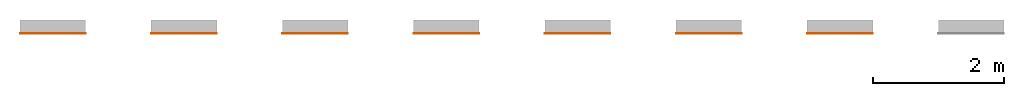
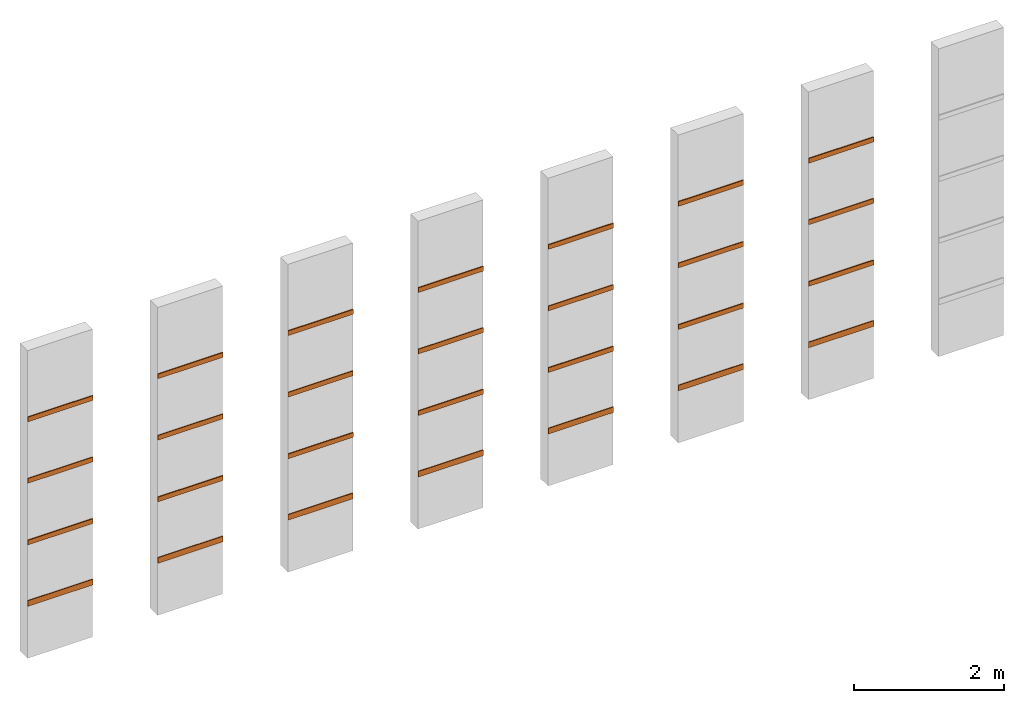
# One storey, part 2 of 3: 28 proxies.
"""IFC2X3 building model written with IfcOpenShell, lengths in millimetres."""

from ifc_helpers import new_model, entity, si_unit, converted_unit, derived_unit, direction, frame, frame_2d, origin, place, context, subcontext, project, spatial, polyline, circle_curve, parameter, trimmed, segment, composite_curve, outline, extrude, type_object, element, save


model = new_model("IFC2X3")

# Units and contexts
model_context = context("Model", 3, precision=0.01, world=origin(), true_north=direction((6.12303176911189e-17, 1.0)))
body_context = subcontext(model_context, "Body", "Model", "MODEL_VIEW")
ifc_project = project(units=[si_unit("LENGTHUNIT", "METRE", prefix="MILLI"), si_unit("AREAUNIT", "SQUARE_METRE"), si_unit("VOLUMEUNIT", "CUBIC_METRE"), converted_unit("PLANEANGLEUNIT", "DEGREE", entity("IfcRatioMeasure", 0.0174532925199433), si_unit("PLANEANGLEUNIT", "RADIAN"), dimensions=[0, 0, 0, 0, 0, 0, 0]), si_unit("MASSUNIT", "GRAM", prefix="KILO"), derived_unit("MASSDENSITYUNIT", [(si_unit("MASSUNIT", "GRAM", prefix="KILO"), 1), (si_unit("LENGTHUNIT", "METRE"), -3)]), derived_unit("MOMENTOFINERTIAUNIT", [(si_unit("LENGTHUNIT", "METRE"), 4)]), si_unit("TIMEUNIT", "SECOND"), si_unit("FREQUENCYUNIT", "HERTZ"), si_unit("THERMODYNAMICTEMPERATUREUNIT", "DEGREE_CELSIUS"), derived_unit("THERMALTRANSMITTANCEUNIT", [(si_unit("MASSUNIT", "GRAM", prefix="KILO"), 1), (si_unit("THERMODYNAMICTEMPERATUREUNIT", "KELVIN"), -1), (si_unit("TIMEUNIT", "SECOND"), -3)]), derived_unit("VOLUMETRICFLOWRATEUNIT", [(si_unit("LENGTHUNIT", "METRE"), 3), (si_unit("TIMEUNIT", "SECOND"), -1)]), si_unit("ELECTRICCURRENTUNIT", "AMPERE"), si_unit("ELECTRICVOLTAGEUNIT", "VOLT"), si_unit("POWERUNIT", "WATT"), si_unit("FORCEUNIT", "NEWTON", prefix="KILO"), si_unit("ILLUMINANCEUNIT", "LUX"), si_unit("LUMINOUSFLUXUNIT", "LUMEN"), si_unit("LUMINOUSINTENSITYUNIT", "CANDELA"), derived_unit("USERDEFINED", [(si_unit("MASSUNIT", "GRAM", prefix="KILO"), -1), (si_unit("LENGTHUNIT", "METRE"), -2), (si_unit("TIMEUNIT", "SECOND"), 3), (si_unit("LUMINOUSFLUXUNIT", "LUMEN"), 1)]), derived_unit("LINEARVELOCITYUNIT", [(si_unit("LENGTHUNIT", "METRE"), 1), (si_unit("TIMEUNIT", "SECOND"), -1)]), si_unit("PRESSUREUNIT", "PASCAL"), derived_unit("USERDEFINED", [(si_unit("LENGTHUNIT", "METRE"), -2), (si_unit("MASSUNIT", "GRAM", prefix="KILO"), 1), (si_unit("TIMEUNIT", "SECOND"), -2)]), derived_unit("LINEARFORCEUNIT", [(si_unit("MASSUNIT", "GRAM", prefix="KILO"), 1), (si_unit("LENGTHUNIT", "METRE"), 1), (si_unit("TIMEUNIT", "SECOND"), -2), (si_unit("LENGTHUNIT", "METRE"), -1)]), derived_unit("PLANARFORCEUNIT", [(si_unit("MASSUNIT", "GRAM", prefix="KILO"), 1), (si_unit("LENGTHUNIT", "METRE"), 1), (si_unit("TIMEUNIT", "SECOND"), -2), (si_unit("LENGTHUNIT", "METRE"), -2)])], contexts=[model_context])

# Site, building, storey
site_placement = place(None, origin())
site = spatial("IfcSite", under=ifc_project, at=site_placement, Name="Default", CompositionType="ELEMENT")
building_placement = place(site_placement, origin())
building = spatial("IfcBuilding", under=site, at=building_placement, CompositionType="ELEMENT")
storey_placement = place(building_placement, origin())
storey = spatial("IfcBuildingStorey", under=building, at=storey_placement, Name="Level 1", CompositionType="ELEMENT", Elevation=0.0)

# Proxies
building_element_proxy_type_1 = type_object("IfcBuildingElementProxyType", Name="Wall Sweep:REVIGRÉS-LOCUS-RB-8X60-SILK-ALLOY", PredefinedType="NOTDEFINED")
proxy_1_placement = place(storey_placement, origin())
element("IfcBuildingElementProxy", 1, at=proxy_1_placement, inside=storey, type_object=building_element_proxy_type_1, Name="Wall Sweep:REVIGRÉS-LOCUS-RB-8X60-SILK-ALLOY", ObjectType="Wall Sweep:REVIGRÉS-LOCUS-RB-8X60-SILK-ALLOY", context=body_context, shape_type="SweptSolid", body=[
    extrude(outline(composite_curve([segment(polyline([(-37.875, -4.25), (42.125, -4.25)]), True, "CONTINUOUS"), segment(trimmed(circle_curve(frame_2d((33.625, -4.25), x_axis=(0.0, 1.0)), 8.49999999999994), [parameter(270.0)], [parameter(0.0)], True, "PARAMETER"), True, "CONTINUOUS"), segment(polyline([(33.625, 4.25), (-37.875, 4.25)]), True, "CONTINUOUS"), segment(polyline([(-37.875, 4.25), (-37.875, -4.25)]), True, "CONTINUOUS")], self_intersect=False)), frame((5592.00231570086, -6977.36532249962, 2887.875), z_axis=(1.0, 0.0, 0.0), x_axis=(0.0, 0.0, 1.0)), (0.0, 0.0, 1.0), 1000.0),
])
building_element_proxy_type_2 = type_object("IfcBuildingElementProxyType", Name="Wall Sweep:REVIGRÉS-LOCUS-RB-8X90-SILK-ALLOY", PredefinedType="NOTDEFINED")
proxy_2_placement = place(storey_placement, origin())
element("IfcBuildingElementProxy", 2, at=proxy_2_placement, inside=storey, type_object=building_element_proxy_type_2, Name="Wall Sweep:REVIGRÉS-LOCUS-RB-8X90-SILK-ALLOY", ObjectType="Wall Sweep:REVIGRÉS-LOCUS-RB-8X90-SILK-ALLOY", context=body_context, shape_type="SweptSolid", body=[
    extrude(outline(composite_curve([segment(polyline([(-37.375, -5.24999999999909), (42.6250000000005, -5.24999999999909)]), True, "CONTINUOUS"), segment(trimmed(circle_curve(frame_2d((32.1250000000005, -5.24999999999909), x_axis=(0.0, 1.0)), 10.4999999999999), [parameter(270.0)], [parameter(0.0)], True, "PARAMETER"), True, "CONTINUOUS"), segment(polyline([(32.1250000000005, 5.25), (-37.375, 5.25)]), True, "CONTINUOUS"), segment(polyline([(-37.375, 5.25), (-37.375, -5.24999999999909)]), True, "CONTINUOUS")], self_intersect=False)), frame((5592.00231570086, -6978.36532249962, 1887.375), z_axis=(1.0, 0.0, 0.0), x_axis=(0.0, 0.0, 1.0)), (0.0, 0.0, 1.0), 1000.0),
])
building_element_proxy_type_3 = type_object("IfcBuildingElementProxyType", Name="Wall Sweep:REVIGRÉS-LOCUS-RB-8X45-SILK-ALLOY", PredefinedType="NOTDEFINED")
proxy_3_placement = place(storey_placement, origin())
element("IfcBuildingElementProxy", 3, at=proxy_3_placement, inside=storey, type_object=building_element_proxy_type_3, Name="Wall Sweep:REVIGRÉS-LOCUS-RB-8X45-SILK-ALLOY", ObjectType="Wall Sweep:REVIGRÉS-LOCUS-RB-8X45-SILK-ALLOY", context=body_context, shape_type="SweptSolid", body=[
    extrude(outline(composite_curve([segment(polyline([(-37.3750000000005, -5.24999999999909), (42.625, -5.24999999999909)]), True, "CONTINUOUS"), segment(trimmed(circle_curve(frame_2d((32.125, -5.24999999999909), x_axis=(0.0, 1.0)), 10.4999999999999), [parameter(270.0)], [parameter(0.0)], True, "PARAMETER"), True, "CONTINUOUS"), segment(polyline([(32.125, 5.25), (-37.3750000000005, 5.25)]), True, "CONTINUOUS"), segment(polyline([(-37.3750000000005, 5.25), (-37.3750000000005, -5.24999999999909)]), True, "CONTINUOUS")], self_intersect=False)), frame((5592.00231570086, -6978.36532249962, 3887.375), z_axis=(1.0, 0.0, 0.0), x_axis=(0.0, 0.0, 1.0)), (0.0, 0.0, 1.0), 1000.0),
])
building_element_proxy_type_4 = type_object("IfcBuildingElementProxyType", Name="Wall Sweep:REVIGRÉS-LOCUS-RB-9,5X30-SILK-ALLOY", PredefinedType="NOTDEFINED")
proxy_4_placement = place(storey_placement, origin())
element("IfcBuildingElementProxy", 4, at=proxy_4_placement, inside=storey, type_object=building_element_proxy_type_4, Name="Wall Sweep:REVIGRÉS-LOCUS-RB-9,5X30-SILK-ALLOY", ObjectType="Wall Sweep:REVIGRÉS-LOCUS-RB-9,5X30-SILK-ALLOY", context=body_context, shape_type="SweptSolid", body=[
    extrude(outline(composite_curve([segment(polyline([(-45.3749999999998, -4.25), (49.6250000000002, -4.25)]), True, "CONTINUOUS"), segment(trimmed(circle_curve(frame_2d((41.1249999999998, -4.25), x_axis=(0.0, 1.0)), 8.49999999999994), [parameter(270.0)], [parameter(0.0)], True, "PARAMETER"), True, "CONTINUOUS"), segment(polyline([(41.1249999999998, 4.25), (-45.3749999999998, 4.25)]), True, "CONTINUOUS"), segment(polyline([(-45.3749999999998, 4.25), (-45.3749999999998, -4.25)]), True, "CONTINUOUS")], self_intersect=False)), frame((5592.00231570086, -6977.36532249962, 895.375000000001), z_axis=(1.0, 0.0, 0.0), x_axis=(0.0, 0.0, 1.0)), (0.0, 0.0, 1.0), 1000.0),
])
building_element_proxy_type_5 = type_object("IfcBuildingElementProxyType", Name="Wall Sweep:REVIGRÉS-LOCUS-RB-8X60-SOFT GRIP-ALLOY", PredefinedType="NOTDEFINED")
proxy_5_placement = place(storey_placement, origin())
element("IfcBuildingElementProxy", 5, at=proxy_5_placement, inside=storey, type_object=building_element_proxy_type_5, Name="Wall Sweep:REVIGRÉS-LOCUS-RB-8X60-SOFT GRIP-ALLOY", ObjectType="Wall Sweep:REVIGRÉS-LOCUS-RB-8X60-SOFT GRIP-ALLOY", context=body_context, shape_type="SweptSolid", body=[
    extrude(outline(composite_curve([segment(polyline([(-37.875, -4.25), (42.125, -4.25)]), True, "CONTINUOUS"), segment(trimmed(circle_curve(frame_2d((33.625, -4.25), x_axis=(0.0, 1.0)), 8.49999999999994), [parameter(270.0)], [parameter(0.0)], True, "PARAMETER"), True, "CONTINUOUS"), segment(polyline([(33.625, 4.25), (-37.875, 4.25)]), True, "CONTINUOUS"), segment(polyline([(-37.875, 4.25), (-37.875, -4.25)]), True, "CONTINUOUS")], self_intersect=False)), frame((7592.00231570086, -6977.36532249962, 2887.875), z_axis=(1.0, 0.0, 0.0), x_axis=(0.0, 0.0, 1.0)), (0.0, 0.0, 1.0), 1000.0),
])
building_element_proxy_type_6 = type_object("IfcBuildingElementProxyType", Name="Wall Sweep:REVIGRÉS-LOCUS-RB-8X90-SOFT GRIP-ALLOY", PredefinedType="NOTDEFINED")
proxy_6_placement = place(storey_placement, origin())
element("IfcBuildingElementProxy", 6, at=proxy_6_placement, inside=storey, type_object=building_element_proxy_type_6, Name="Wall Sweep:REVIGRÉS-LOCUS-RB-8X90-SOFT GRIP-ALLOY", ObjectType="Wall Sweep:REVIGRÉS-LOCUS-RB-8X90-SOFT GRIP-ALLOY", context=body_context, shape_type="SweptSolid", body=[
    extrude(outline(composite_curve([segment(polyline([(-37.375, -5.25), (42.6250000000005, -5.25)]), True, "CONTINUOUS"), segment(trimmed(circle_curve(frame_2d((32.1250000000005, -5.25), x_axis=(0.0, 1.0)), 10.4999999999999), [parameter(270.0)], [parameter(0.0)], True, "PARAMETER"), True, "CONTINUOUS"), segment(polyline([(32.1250000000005, 5.25), (-37.375, 5.25)]), True, "CONTINUOUS"), segment(polyline([(-37.375, 5.25), (-37.375, -5.25)]), True, "CONTINUOUS")], self_intersect=False)), frame((7592.00231570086, -6978.36532249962, 1887.375), z_axis=(1.0, 0.0, 0.0), x_axis=(0.0, 0.0, 1.0)), (0.0, 0.0, 1.0), 1000.0),
])
building_element_proxy_type_7 = type_object("IfcBuildingElementProxyType", Name="Wall Sweep:REVIGRÉS-LOCUS-RB-8X45-SOFT GRIP-ALLOY", PredefinedType="NOTDEFINED")
proxy_7_placement = place(storey_placement, origin())
element("IfcBuildingElementProxy", 7, at=proxy_7_placement, inside=storey, type_object=building_element_proxy_type_7, Name="Wall Sweep:REVIGRÉS-LOCUS-RB-8X45-SOFT GRIP-ALLOY", ObjectType="Wall Sweep:REVIGRÉS-LOCUS-RB-8X45-SOFT GRIP-ALLOY", context=body_context, shape_type="SweptSolid", body=[
    extrude(outline(composite_curve([segment(polyline([(-37.3750000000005, -5.25), (42.625, -5.25)]), True, "CONTINUOUS"), segment(trimmed(circle_curve(frame_2d((32.125, -5.25), x_axis=(0.0, 1.0)), 10.4999999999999), [parameter(270.0)], [parameter(0.0)], True, "PARAMETER"), True, "CONTINUOUS"), segment(polyline([(32.125, 5.25), (-37.3750000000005, 5.25)]), True, "CONTINUOUS"), segment(polyline([(-37.3750000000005, 5.25), (-37.3750000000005, -5.25)]), True, "CONTINUOUS")], self_intersect=False)), frame((7592.00231570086, -6978.36532249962, 3887.375), z_axis=(1.0, 0.0, 0.0), x_axis=(0.0, 0.0, 1.0)), (0.0, 0.0, 1.0), 1000.0),
])
building_element_proxy_type_8 = type_object("IfcBuildingElementProxyType", Name="Wall Sweep:REVIGRÉS-LOCUS-RB-9,5X30-SOFT GRIP-ALLOY", PredefinedType="NOTDEFINED")
proxy_8_placement = place(storey_placement, origin())
element("IfcBuildingElementProxy", 8, at=proxy_8_placement, inside=storey, type_object=building_element_proxy_type_8, Name="Wall Sweep:REVIGRÉS-LOCUS-RB-9,5X30-SOFT GRIP-ALLOY", ObjectType="Wall Sweep:REVIGRÉS-LOCUS-RB-9,5X30-SOFT GRIP-ALLOY", context=body_context, shape_type="SweptSolid", body=[
    extrude(outline(composite_curve([segment(polyline([(-45.3749999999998, -4.25), (49.6250000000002, -4.25)]), True, "CONTINUOUS"), segment(trimmed(circle_curve(frame_2d((41.1249999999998, -4.25), x_axis=(0.0, 1.0)), 8.49999999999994), [parameter(270.0)], [parameter(0.0)], True, "PARAMETER"), True, "CONTINUOUS"), segment(polyline([(41.1249999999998, 4.25), (-45.3749999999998, 4.25)]), True, "CONTINUOUS"), segment(polyline([(-45.3749999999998, 4.25), (-45.3749999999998, -4.25)]), True, "CONTINUOUS")], self_intersect=False)), frame((7592.00231570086, -6977.36532249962, 895.375000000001), z_axis=(1.0, 0.0, 0.0), x_axis=(0.0, 0.0, 1.0)), (0.0, 0.0, 1.0), 1000.0),
])
building_element_proxy_type_9 = type_object("IfcBuildingElementProxyType", Name="Wall Sweep:REVIGRÉS-LOCUS-RB-8X60-SILK-BONE", PredefinedType="NOTDEFINED")
proxy_9_placement = place(storey_placement, origin())
element("IfcBuildingElementProxy", 9, at=proxy_9_placement, inside=storey, type_object=building_element_proxy_type_9, Name="Wall Sweep:REVIGRÉS-LOCUS-RB-8X60-SILK-BONE", ObjectType="Wall Sweep:REVIGRÉS-LOCUS-RB-8X60-SILK-BONE", context=body_context, shape_type="SweptSolid", body=[
    extrude(outline(composite_curve([segment(polyline([(-37.875, -4.25), (42.125, -4.25)]), True, "CONTINUOUS"), segment(trimmed(circle_curve(frame_2d((33.625, -4.25), x_axis=(0.0, 1.0)), 8.49999999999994), [parameter(270.0)], [parameter(0.0)], True, "PARAMETER"), True, "CONTINUOUS"), segment(polyline([(33.625, 4.25), (-37.875, 4.25)]), True, "CONTINUOUS"), segment(polyline([(-37.875, 4.25), (-37.875, -4.25)]), True, "CONTINUOUS")], self_intersect=False)), frame((9592.00231570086, -6977.36532249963, 2887.875), z_axis=(1.0, 0.0, 0.0), x_axis=(0.0, 0.0, 1.0)), (0.0, 0.0, 1.0), 1000.0),
])
building_element_proxy_type_10 = type_object("IfcBuildingElementProxyType", Name="Wall Sweep:REVIGRÉS-LOCUS-RB-8X90-SILK-BONE", PredefinedType="NOTDEFINED")
proxy_10_placement = place(storey_placement, origin())
element("IfcBuildingElementProxy", 10, at=proxy_10_placement, inside=storey, type_object=building_element_proxy_type_10, Name="Wall Sweep:REVIGRÉS-LOCUS-RB-8X90-SILK-BONE", ObjectType="Wall Sweep:REVIGRÉS-LOCUS-RB-8X90-SILK-BONE", context=body_context, shape_type="SweptSolid", body=[
    extrude(outline(composite_curve([segment(polyline([(-37.375, -5.25), (42.6250000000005, -5.25)]), True, "CONTINUOUS"), segment(trimmed(circle_curve(frame_2d((32.1250000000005, -5.25), x_axis=(0.0, 1.0)), 10.4999999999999), [parameter(270.0)], [parameter(0.0)], True, "PARAMETER"), True, "CONTINUOUS"), segment(polyline([(32.1250000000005, 5.25), (-37.375, 5.25)]), True, "CONTINUOUS"), segment(polyline([(-37.375, 5.25), (-37.375, -5.25)]), True, "CONTINUOUS")], self_intersect=False)), frame((9592.00231570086, -6978.36532249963, 1887.375), z_axis=(1.0, 0.0, 0.0), x_axis=(0.0, 0.0, 1.0)), (0.0, 0.0, 1.0), 1000.0),
])
building_element_proxy_type_11 = type_object("IfcBuildingElementProxyType", Name="Wall Sweep:REVIGRÉS-LOCUS-RB-8X45-SILK-BONE", PredefinedType="NOTDEFINED")
proxy_11_placement = place(storey_placement, origin())
element("IfcBuildingElementProxy", 11, at=proxy_11_placement, inside=storey, type_object=building_element_proxy_type_11, Name="Wall Sweep:REVIGRÉS-LOCUS-RB-8X45-SILK-BONE", ObjectType="Wall Sweep:REVIGRÉS-LOCUS-RB-8X45-SILK-BONE", context=body_context, shape_type="SweptSolid", body=[
    extrude(outline(composite_curve([segment(polyline([(-37.3750000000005, -5.25), (42.625, -5.25)]), True, "CONTINUOUS"), segment(trimmed(circle_curve(frame_2d((32.125, -5.25), x_axis=(0.0, 1.0)), 10.4999999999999), [parameter(270.0)], [parameter(0.0)], True, "PARAMETER"), True, "CONTINUOUS"), segment(polyline([(32.125, 5.25), (-37.3750000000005, 5.25)]), True, "CONTINUOUS"), segment(polyline([(-37.3750000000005, 5.25), (-37.3750000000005, -5.25)]), True, "CONTINUOUS")], self_intersect=False)), frame((9592.00231570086, -6978.36532249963, 3887.375), z_axis=(1.0, 0.0, 0.0), x_axis=(0.0, 0.0, 1.0)), (0.0, 0.0, 1.0), 1000.0),
])
building_element_proxy_type_12 = type_object("IfcBuildingElementProxyType", Name="Wall Sweep:REVIGRÉS-LOCUS-RB-9,5X30-SILK-BONE", PredefinedType="NOTDEFINED")
proxy_12_placement = place(storey_placement, origin())
element("IfcBuildingElementProxy", 12, at=proxy_12_placement, inside=storey, type_object=building_element_proxy_type_12, Name="Wall Sweep:REVIGRÉS-LOCUS-RB-9,5X30-SILK-BONE", ObjectType="Wall Sweep:REVIGRÉS-LOCUS-RB-9,5X30-SILK-BONE", context=body_context, shape_type="SweptSolid", body=[
    extrude(outline(composite_curve([segment(polyline([(-45.3749999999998, -4.25), (49.6250000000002, -4.25)]), True, "CONTINUOUS"), segment(trimmed(circle_curve(frame_2d((41.1249999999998, -4.25), x_axis=(0.0, 1.0)), 8.49999999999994), [parameter(270.0)], [parameter(0.0)], True, "PARAMETER"), True, "CONTINUOUS"), segment(polyline([(41.1249999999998, 4.25), (-45.3749999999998, 4.25)]), True, "CONTINUOUS"), segment(polyline([(-45.3749999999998, 4.25), (-45.3749999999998, -4.25)]), True, "CONTINUOUS")], self_intersect=False)), frame((9592.00231570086, -6977.36532249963, 895.375000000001), z_axis=(1.0, 0.0, 0.0), x_axis=(0.0, 0.0, 1.0)), (0.0, 0.0, 1.0), 1000.0),
])
building_element_proxy_type_13 = type_object("IfcBuildingElementProxyType", Name="Wall Sweep:REVIGRÉS-LOCUS-RB-8X60-SOFT GRIP-BONE", PredefinedType="NOTDEFINED")
proxy_13_placement = place(storey_placement, origin())
element("IfcBuildingElementProxy", 13, at=proxy_13_placement, inside=storey, type_object=building_element_proxy_type_13, Name="Wall Sweep:REVIGRÉS-LOCUS-RB-8X60-SOFT GRIP-BONE", ObjectType="Wall Sweep:REVIGRÉS-LOCUS-RB-8X60-SOFT GRIP-BONE", context=body_context, shape_type="SweptSolid", body=[
    extrude(outline(composite_curve([segment(polyline([(-37.875, -4.25), (42.125, -4.25)]), True, "CONTINUOUS"), segment(trimmed(circle_curve(frame_2d((33.625, -4.25), x_axis=(0.0, 1.0)), 8.49999999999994), [parameter(270.0)], [parameter(0.0)], True, "PARAMETER"), True, "CONTINUOUS"), segment(polyline([(33.625, 4.25), (-37.875, 4.25)]), True, "CONTINUOUS"), segment(polyline([(-37.875, 4.25), (-37.875, -4.25)]), True, "CONTINUOUS")], self_intersect=False)), frame((11592.0023157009, -6977.36532249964, 2887.875), z_axis=(1.0, 0.0, 0.0), x_axis=(0.0, 0.0, 1.0)), (0.0, 0.0, 1.0), 1000.0),
])
building_element_proxy_type_14 = type_object("IfcBuildingElementProxyType", Name="Wall Sweep:REVIGRÉS-LOCUS-RB-8X90-SOFT GRIP-BONE", PredefinedType="NOTDEFINED")
proxy_14_placement = place(storey_placement, origin())
element("IfcBuildingElementProxy", 14, at=proxy_14_placement, inside=storey, type_object=building_element_proxy_type_14, Name="Wall Sweep:REVIGRÉS-LOCUS-RB-8X90-SOFT GRIP-BONE", ObjectType="Wall Sweep:REVIGRÉS-LOCUS-RB-8X90-SOFT GRIP-BONE", context=body_context, shape_type="SweptSolid", body=[
    extrude(outline(composite_curve([segment(polyline([(-37.375, -5.25), (42.6250000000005, -5.25)]), True, "CONTINUOUS"), segment(trimmed(circle_curve(frame_2d((32.1250000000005, -5.25), x_axis=(0.0, 1.0)), 10.4999999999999), [parameter(270.0)], [parameter(0.0)], True, "PARAMETER"), True, "CONTINUOUS"), segment(polyline([(32.1250000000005, 5.25), (-37.375, 5.25)]), True, "CONTINUOUS"), segment(polyline([(-37.375, 5.25), (-37.375, -5.25)]), True, "CONTINUOUS")], self_intersect=False)), frame((11592.0023157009, -6978.36532249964, 1887.375), z_axis=(1.0, 0.0, 0.0), x_axis=(0.0, 0.0, 1.0)), (0.0, 0.0, 1.0), 1000.0),
])
building_element_proxy_type_15 = type_object("IfcBuildingElementProxyType", Name="Wall Sweep:REVIGRÉS-LOCUS-RB-8X45-SOFT GRIP-BONE", PredefinedType="NOTDEFINED")
proxy_15_placement = place(storey_placement, origin())
element("IfcBuildingElementProxy", 15, at=proxy_15_placement, inside=storey, type_object=building_element_proxy_type_15, Name="Wall Sweep:REVIGRÉS-LOCUS-RB-8X45-SOFT GRIP-BONE", ObjectType="Wall Sweep:REVIGRÉS-LOCUS-RB-8X45-SOFT GRIP-BONE", context=body_context, shape_type="SweptSolid", body=[
    extrude(outline(composite_curve([segment(polyline([(-37.3750000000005, -5.25), (42.625, -5.25)]), True, "CONTINUOUS"), segment(trimmed(circle_curve(frame_2d((32.125, -5.25), x_axis=(0.0, 1.0)), 10.4999999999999), [parameter(270.0)], [parameter(0.0)], True, "PARAMETER"), True, "CONTINUOUS"), segment(polyline([(32.125, 5.25), (-37.3750000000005, 5.25)]), True, "CONTINUOUS"), segment(polyline([(-37.3750000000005, 5.25), (-37.3750000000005, -5.25)]), True, "CONTINUOUS")], self_intersect=False)), frame((11592.0023157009, -6978.36532249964, 3887.375), z_axis=(1.0, 0.0, 0.0), x_axis=(0.0, 0.0, 1.0)), (0.0, 0.0, 1.0), 1000.0),
])
building_element_proxy_type_16 = type_object("IfcBuildingElementProxyType", Name="Wall Sweep:REVIGRÉS-LOCUS-RB-9,5X30-SOFT GRIP-BONE", PredefinedType="NOTDEFINED")
proxy_16_placement = place(storey_placement, origin())
element("IfcBuildingElementProxy", 16, at=proxy_16_placement, inside=storey, type_object=building_element_proxy_type_16, Name="Wall Sweep:REVIGRÉS-LOCUS-RB-9,5X30-SOFT GRIP-BONE", ObjectType="Wall Sweep:REVIGRÉS-LOCUS-RB-9,5X30-SOFT GRIP-BONE", context=body_context, shape_type="SweptSolid", body=[
    extrude(outline(composite_curve([segment(polyline([(-45.3749999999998, -4.25), (49.6250000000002, -4.25)]), True, "CONTINUOUS"), segment(trimmed(circle_curve(frame_2d((41.1249999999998, -4.25), x_axis=(0.0, 1.0)), 8.49999999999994), [parameter(270.0)], [parameter(0.0)], True, "PARAMETER"), True, "CONTINUOUS"), segment(polyline([(41.1249999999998, 4.25), (-45.3749999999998, 4.25)]), True, "CONTINUOUS"), segment(polyline([(-45.3749999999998, 4.25), (-45.3749999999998, -4.25)]), True, "CONTINUOUS")], self_intersect=False)), frame((11592.0023157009, -6977.36532249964, 895.375000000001), z_axis=(1.0, 0.0, 0.0), x_axis=(0.0, 0.0, 1.0)), (0.0, 0.0, 1.0), 1000.0),
])
building_element_proxy_type_17 = type_object("IfcBuildingElementProxyType", Name="Wall Sweep:REVIGRÉS-LOCUS-RB-8X60-SILK-GRIS", PredefinedType="NOTDEFINED")
proxy_17_placement = place(storey_placement, origin())
element("IfcBuildingElementProxy", 17, at=proxy_17_placement, inside=storey, type_object=building_element_proxy_type_17, Name="Wall Sweep:REVIGRÉS-LOCUS-RB-8X60-SILK-GRIS", ObjectType="Wall Sweep:REVIGRÉS-LOCUS-RB-8X60-SILK-GRIS", context=body_context, shape_type="SweptSolid", body=[
    extrude(outline(composite_curve([segment(polyline([(-37.875, -4.25), (42.125, -4.25)]), True, "CONTINUOUS"), segment(trimmed(circle_curve(frame_2d((33.625, -4.25), x_axis=(0.0, 1.0)), 8.49999999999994), [parameter(270.0)], [parameter(0.0)], True, "PARAMETER"), True, "CONTINUOUS"), segment(polyline([(33.625, 4.25), (-37.875, 4.25)]), True, "CONTINUOUS"), segment(polyline([(-37.875, 4.25), (-37.875, -4.25)]), True, "CONTINUOUS")], self_intersect=False)), frame((13592.0023157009, -6977.36532249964, 2887.875), z_axis=(1.0, 0.0, 0.0), x_axis=(0.0, 0.0, 1.0)), (0.0, 0.0, 1.0), 1000.0),
])
building_element_proxy_type_18 = type_object("IfcBuildingElementProxyType", Name="Wall Sweep:REVIGRÉS-LOCUS-RB-8X90-SILK-GRIS", PredefinedType="NOTDEFINED")
proxy_18_placement = place(storey_placement, origin())
element("IfcBuildingElementProxy", 18, at=proxy_18_placement, inside=storey, type_object=building_element_proxy_type_18, Name="Wall Sweep:REVIGRÉS-LOCUS-RB-8X90-SILK-GRIS", ObjectType="Wall Sweep:REVIGRÉS-LOCUS-RB-8X90-SILK-GRIS", context=body_context, shape_type="SweptSolid", body=[
    extrude(outline(composite_curve([segment(polyline([(-37.375, -5.25), (42.6250000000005, -5.25)]), True, "CONTINUOUS"), segment(trimmed(circle_curve(frame_2d((32.1250000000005, -5.25), x_axis=(0.0, 1.0)), 10.4999999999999), [parameter(270.0)], [parameter(0.0)], True, "PARAMETER"), True, "CONTINUOUS"), segment(polyline([(32.1250000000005, 5.25), (-37.375, 5.25)]), True, "CONTINUOUS"), segment(polyline([(-37.375, 5.25), (-37.375, -5.25)]), True, "CONTINUOUS")], self_intersect=False)), frame((13592.0023157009, -6978.36532249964, 1887.375), z_axis=(1.0, 0.0, 0.0), x_axis=(0.0, 0.0, 1.0)), (0.0, 0.0, 1.0), 1000.0),
])
building_element_proxy_type_19 = type_object("IfcBuildingElementProxyType", Name="Wall Sweep:REVIGRÉS-LOCUS-RB-8X45-SILK-GRIS", PredefinedType="NOTDEFINED")
proxy_19_placement = place(storey_placement, origin())
element("IfcBuildingElementProxy", 19, at=proxy_19_placement, inside=storey, type_object=building_element_proxy_type_19, Name="Wall Sweep:REVIGRÉS-LOCUS-RB-8X45-SILK-GRIS", ObjectType="Wall Sweep:REVIGRÉS-LOCUS-RB-8X45-SILK-GRIS", context=body_context, shape_type="SweptSolid", body=[
    extrude(outline(composite_curve([segment(polyline([(-37.3750000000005, -5.25), (42.625, -5.25)]), True, "CONTINUOUS"), segment(trimmed(circle_curve(frame_2d((32.125, -5.25), x_axis=(0.0, 1.0)), 10.4999999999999), [parameter(270.0)], [parameter(0.0)], True, "PARAMETER"), True, "CONTINUOUS"), segment(polyline([(32.125, 5.25), (-37.3750000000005, 5.25)]), True, "CONTINUOUS"), segment(polyline([(-37.3750000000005, 5.25), (-37.3750000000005, -5.25)]), True, "CONTINUOUS")], self_intersect=False)), frame((13592.0023157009, -6978.36532249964, 3887.375), z_axis=(1.0, 0.0, 0.0), x_axis=(0.0, 0.0, 1.0)), (0.0, 0.0, 1.0), 1000.0),
])
building_element_proxy_type_20 = type_object("IfcBuildingElementProxyType", Name="Wall Sweep:REVIGRÉS-LOCUS-RB-9,5X30-SILK-GRIS", PredefinedType="NOTDEFINED")
proxy_20_placement = place(storey_placement, origin())
element("IfcBuildingElementProxy", 20, at=proxy_20_placement, inside=storey, type_object=building_element_proxy_type_20, Name="Wall Sweep:REVIGRÉS-LOCUS-RB-9,5X30-SILK-GRIS", ObjectType="Wall Sweep:REVIGRÉS-LOCUS-RB-9,5X30-SILK-GRIS", context=body_context, shape_type="SweptSolid", body=[
    extrude(outline(composite_curve([segment(polyline([(-45.3749999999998, -4.25), (49.6250000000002, -4.25)]), True, "CONTINUOUS"), segment(trimmed(circle_curve(frame_2d((41.1249999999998, -4.25), x_axis=(0.0, 1.0)), 8.49999999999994), [parameter(270.0)], [parameter(0.0)], True, "PARAMETER"), True, "CONTINUOUS"), segment(polyline([(41.1249999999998, 4.25), (-45.3749999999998, 4.25)]), True, "CONTINUOUS"), segment(polyline([(-45.3749999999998, 4.25), (-45.3749999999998, -4.25)]), True, "CONTINUOUS")], self_intersect=False)), frame((13592.0023157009, -6977.36532249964, 895.375000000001), z_axis=(1.0, 0.0, 0.0), x_axis=(0.0, 0.0, 1.0)), (0.0, 0.0, 1.0), 1000.0),
])
building_element_proxy_type_21 = type_object("IfcBuildingElementProxyType", Name="Wall Sweep:REVIGRÉS-LOCUS-RB-8X60-SOFT GRIP-GRIS", PredefinedType="NOTDEFINED")
proxy_21_placement = place(storey_placement, origin())
element("IfcBuildingElementProxy", 21, at=proxy_21_placement, inside=storey, type_object=building_element_proxy_type_21, Name="Wall Sweep:REVIGRÉS-LOCUS-RB-8X60-SOFT GRIP-GRIS", ObjectType="Wall Sweep:REVIGRÉS-LOCUS-RB-8X60-SOFT GRIP-GRIS", context=body_context, shape_type="SweptSolid", body=[
    extrude(outline(composite_curve([segment(polyline([(-37.875, -4.25), (42.125, -4.25)]), True, "CONTINUOUS"), segment(trimmed(circle_curve(frame_2d((33.625, -4.25), x_axis=(0.0, 1.0)), 8.49999999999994), [parameter(270.0)], [parameter(0.0)], True, "PARAMETER"), True, "CONTINUOUS"), segment(polyline([(33.625, 4.25000000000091), (-37.875, 4.25000000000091)]), True, "CONTINUOUS"), segment(polyline([(-37.875, 4.25000000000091), (-37.875, -4.25)]), True, "CONTINUOUS")], self_intersect=False)), frame((15592.0023157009, -6977.36532249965, 2887.875), z_axis=(1.0, 0.0, 0.0), x_axis=(0.0, 0.0, 1.0)), (0.0, 0.0, 1.0), 1000.0),
])
building_element_proxy_type_22 = type_object("IfcBuildingElementProxyType", Name="Wall Sweep:REVIGRÉS-LOCUS-RB-8X90-SOFT GRIP-GRIS", PredefinedType="NOTDEFINED")
proxy_22_placement = place(storey_placement, origin())
element("IfcBuildingElementProxy", 22, at=proxy_22_placement, inside=storey, type_object=building_element_proxy_type_22, Name="Wall Sweep:REVIGRÉS-LOCUS-RB-8X90-SOFT GRIP-GRIS", ObjectType="Wall Sweep:REVIGRÉS-LOCUS-RB-8X90-SOFT GRIP-GRIS", context=body_context, shape_type="SweptSolid", body=[
    extrude(outline(composite_curve([segment(polyline([(-37.375, -5.25), (42.6250000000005, -5.25)]), True, "CONTINUOUS"), segment(trimmed(circle_curve(frame_2d((32.1250000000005, -5.25), x_axis=(0.0, 1.0)), 10.4999999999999), [parameter(270.0)], [parameter(0.0)], True, "PARAMETER"), True, "CONTINUOUS"), segment(polyline([(32.1250000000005, 5.25), (-37.375, 5.25)]), True, "CONTINUOUS"), segment(polyline([(-37.375, 5.25), (-37.375, -5.25)]), True, "CONTINUOUS")], self_intersect=False)), frame((15592.0023157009, -6978.36532249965, 1887.375), z_axis=(1.0, 0.0, 0.0), x_axis=(0.0, 0.0, 1.0)), (0.0, 0.0, 1.0), 1000.0),
])
building_element_proxy_type_23 = type_object("IfcBuildingElementProxyType", Name="Wall Sweep:REVIGRÉS-LOCUS-RB-8X45-SOFT GRIP-GRIS", PredefinedType="NOTDEFINED")
proxy_23_placement = place(storey_placement, origin())
element("IfcBuildingElementProxy", 23, at=proxy_23_placement, inside=storey, type_object=building_element_proxy_type_23, Name="Wall Sweep:REVIGRÉS-LOCUS-RB-8X45-SOFT GRIP-GRIS", ObjectType="Wall Sweep:REVIGRÉS-LOCUS-RB-8X45-SOFT GRIP-GRIS", context=body_context, shape_type="SweptSolid", body=[
    extrude(outline(composite_curve([segment(polyline([(-37.3750000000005, -5.25), (42.625, -5.25)]), True, "CONTINUOUS"), segment(trimmed(circle_curve(frame_2d((32.125, -5.25), x_axis=(0.0, 1.0)), 10.4999999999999), [parameter(270.0)], [parameter(0.0)], True, "PARAMETER"), True, "CONTINUOUS"), segment(polyline([(32.125, 5.25), (-37.3750000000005, 5.25)]), True, "CONTINUOUS"), segment(polyline([(-37.3750000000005, 5.25), (-37.3750000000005, -5.25)]), True, "CONTINUOUS")], self_intersect=False)), frame((15592.0023157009, -6978.36532249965, 3887.375), z_axis=(1.0, 0.0, 0.0), x_axis=(0.0, 0.0, 1.0)), (0.0, 0.0, 1.0), 1000.0),
])
building_element_proxy_type_24 = type_object("IfcBuildingElementProxyType", Name="Wall Sweep:REVIGRÉS-LOCUS-RB-9,5X30-SOFT GRIP-GRIS", PredefinedType="NOTDEFINED")
proxy_24_placement = place(storey_placement, origin())
element("IfcBuildingElementProxy", 24, at=proxy_24_placement, inside=storey, type_object=building_element_proxy_type_24, Name="Wall Sweep:REVIGRÉS-LOCUS-RB-9,5X30-SOFT GRIP-GRIS", ObjectType="Wall Sweep:REVIGRÉS-LOCUS-RB-9,5X30-SOFT GRIP-GRIS", context=body_context, shape_type="SweptSolid", body=[
    extrude(outline(composite_curve([segment(polyline([(-45.3749999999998, -4.25), (49.6250000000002, -4.25)]), True, "CONTINUOUS"), segment(trimmed(circle_curve(frame_2d((41.1249999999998, -4.25), x_axis=(0.0, 1.0)), 8.49999999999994), [parameter(270.0)], [parameter(0.0)], True, "PARAMETER"), True, "CONTINUOUS"), segment(polyline([(41.1249999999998, 4.25000000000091), (-45.3749999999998, 4.25000000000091)]), True, "CONTINUOUS"), segment(polyline([(-45.3749999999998, 4.25000000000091), (-45.3749999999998, -4.25)]), True, "CONTINUOUS")], self_intersect=False)), frame((15592.0023157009, -6977.36532249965, 895.375000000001), z_axis=(1.0, 0.0, 0.0), x_axis=(0.0, 0.0, 1.0)), (0.0, 0.0, 1.0), 1000.0),
])
building_element_proxy_type_25 = type_object("IfcBuildingElementProxyType", Name="Wall Sweep:REVIGRÉS-LOCUS-RB-8X60-SILK-SMOG", PredefinedType="NOTDEFINED")
proxy_25_placement = place(storey_placement, origin())
element("IfcBuildingElementProxy", 25, at=proxy_25_placement, inside=storey, type_object=building_element_proxy_type_25, Name="Wall Sweep:REVIGRÉS-LOCUS-RB-8X60-SILK-SMOG", ObjectType="Wall Sweep:REVIGRÉS-LOCUS-RB-8X60-SILK-SMOG", context=body_context, shape_type="SweptSolid", body=[
    extrude(outline(composite_curve([segment(polyline([(-37.875, -4.25000000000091), (42.125, -4.25000000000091)]), True, "CONTINUOUS"), segment(trimmed(circle_curve(frame_2d((33.625, -4.25000000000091), x_axis=(0.0, 1.0)), 8.49999999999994), [parameter(270.0)], [parameter(0.0)], True, "PARAMETER"), True, "CONTINUOUS"), segment(polyline([(33.625, 4.25), (-37.875, 4.25)]), True, "CONTINUOUS"), segment(polyline([(-37.875, 4.25), (-37.875, -4.25000000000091)]), True, "CONTINUOUS")], self_intersect=False)), frame((17592.0023157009, -6977.36532249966, 2887.875), z_axis=(1.0, 0.0, 0.0), x_axis=(0.0, 0.0, 1.0)), (0.0, 0.0, 1.0), 1000.0),
])
building_element_proxy_type_26 = type_object("IfcBuildingElementProxyType", Name="Wall Sweep:REVIGRÉS-LOCUS-RB-8X90-SILK-SMOG", PredefinedType="NOTDEFINED")
proxy_26_placement = place(storey_placement, origin())
element("IfcBuildingElementProxy", 26, at=proxy_26_placement, inside=storey, type_object=building_element_proxy_type_26, Name="Wall Sweep:REVIGRÉS-LOCUS-RB-8X90-SILK-SMOG", ObjectType="Wall Sweep:REVIGRÉS-LOCUS-RB-8X90-SILK-SMOG", context=body_context, shape_type="SweptSolid", body=[
    extrude(outline(composite_curve([segment(polyline([(-37.375, -5.25), (42.6250000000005, -5.25)]), True, "CONTINUOUS"), segment(trimmed(circle_curve(frame_2d((32.1250000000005, -5.25), x_axis=(0.0, 1.0)), 10.4999999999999), [parameter(270.0)], [parameter(0.0)], True, "PARAMETER"), True, "CONTINUOUS"), segment(polyline([(32.1250000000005, 5.25), (-37.375, 5.25)]), True, "CONTINUOUS"), segment(polyline([(-37.375, 5.25), (-37.375, -5.25)]), True, "CONTINUOUS")], self_intersect=False)), frame((17592.0023157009, -6978.36532249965, 1887.375), z_axis=(1.0, 0.0, 0.0), x_axis=(0.0, 0.0, 1.0)), (0.0, 0.0, 1.0), 1000.0),
])
building_element_proxy_type_27 = type_object("IfcBuildingElementProxyType", Name="Wall Sweep:REVIGRÉS-LOCUS-RB-8X45-SILK-SMOG", PredefinedType="NOTDEFINED")
proxy_27_placement = place(storey_placement, origin())
element("IfcBuildingElementProxy", 27, at=proxy_27_placement, inside=storey, type_object=building_element_proxy_type_27, Name="Wall Sweep:REVIGRÉS-LOCUS-RB-8X45-SILK-SMOG", ObjectType="Wall Sweep:REVIGRÉS-LOCUS-RB-8X45-SILK-SMOG", context=body_context, shape_type="SweptSolid", body=[
    extrude(outline(composite_curve([segment(polyline([(-37.3750000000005, -5.25), (42.625, -5.25)]), True, "CONTINUOUS"), segment(trimmed(circle_curve(frame_2d((32.125, -5.25), x_axis=(0.0, 1.0)), 10.4999999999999), [parameter(270.0)], [parameter(0.0)], True, "PARAMETER"), True, "CONTINUOUS"), segment(polyline([(32.125, 5.25), (-37.3750000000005, 5.25)]), True, "CONTINUOUS"), segment(polyline([(-37.3750000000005, 5.25), (-37.3750000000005, -5.25)]), True, "CONTINUOUS")], self_intersect=False)), frame((17592.0023157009, -6978.36532249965, 3887.375), z_axis=(1.0, 0.0, 0.0), x_axis=(0.0, 0.0, 1.0)), (0.0, 0.0, 1.0), 1000.0),
])
building_element_proxy_type_28 = type_object("IfcBuildingElementProxyType", Name="Wall Sweep:REVIGRÉS-LOCUS-RB-9,5X30-SILK-SMOG", PredefinedType="NOTDEFINED")
proxy_28_placement = place(storey_placement, origin())
element("IfcBuildingElementProxy", 28, at=proxy_28_placement, inside=storey, type_object=building_element_proxy_type_28, Name="Wall Sweep:REVIGRÉS-LOCUS-RB-9,5X30-SILK-SMOG", ObjectType="Wall Sweep:REVIGRÉS-LOCUS-RB-9,5X30-SILK-SMOG", context=body_context, shape_type="SweptSolid", body=[
    extrude(outline(composite_curve([segment(polyline([(-45.3749999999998, -4.25000000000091), (49.6250000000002, -4.25000000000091)]), True, "CONTINUOUS"), segment(trimmed(circle_curve(frame_2d((41.1249999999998, -4.25000000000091), x_axis=(0.0, 1.0)), 8.49999999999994), [parameter(270.0)], [parameter(0.0)], True, "PARAMETER"), True, "CONTINUOUS"), segment(polyline([(41.1249999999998, 4.25), (-45.3749999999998, 4.25)]), True, "CONTINUOUS"), segment(polyline([(-45.3749999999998, 4.25), (-45.3749999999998, -4.25000000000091)]), True, "CONTINUOUS")], self_intersect=False)), frame((17592.0023157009, -6977.36532249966, 895.375000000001), z_axis=(1.0, 0.0, 0.0), x_axis=(0.0, 0.0, 1.0)), (0.0, 0.0, 1.0), 1000.0),
])

save(model, "model.ifc")
